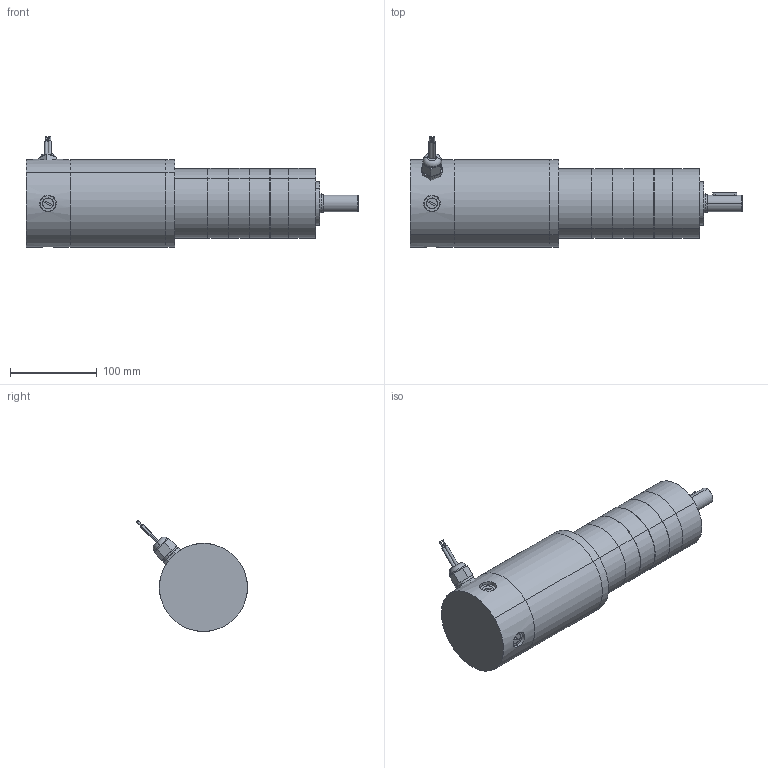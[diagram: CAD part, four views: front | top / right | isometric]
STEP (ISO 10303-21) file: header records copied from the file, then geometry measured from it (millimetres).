
FILE_DESCRIPTION (( 'STEP AP203' ), '1' );
FILE_NAME ('d40675bgp4.step', '2018-12-07T19:46:08', ( '' ), ( '' ), 'SwSTEP 2.0', 'SolidWorks 2017', '' );
FILE_SCHEMA (( 'CONFIG_CONTROL_DESIGN' ));
Length unit declared in the file: inch
Products named in the file (1): d40675bgp4
Bounding box: 383.15 x 128 x 128 mm (x, y, z)
Volume: 2265417 mm3; surface area: 230816.1 mm2
Topology: 21 solids, 21 shells, 484 faces, 1020 edges, 614 vertices
Faces by surface type: plane 212, cylinder 179, cone 73, torus 12, sphere 8
Entity records: 13342 total; most frequent: CARTESIAN_POINT 2681, DIRECTION 2417, ORIENTED_EDGE 1992, EDGE_CURVE 996, AXIS2_PLACEMENT_3D 966, VERTEX_POINT 614, EDGE_LOOP 560, LINE 485
